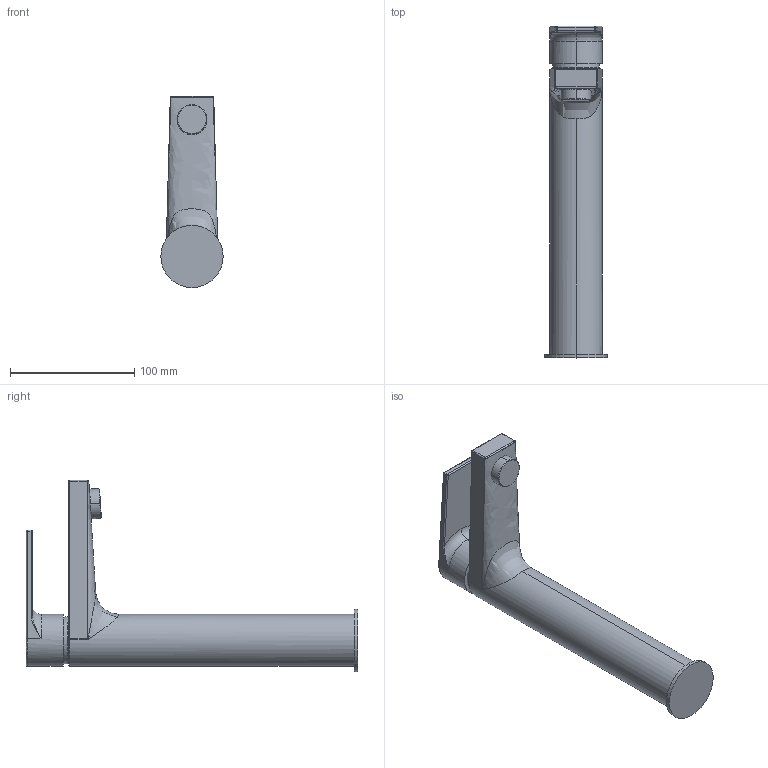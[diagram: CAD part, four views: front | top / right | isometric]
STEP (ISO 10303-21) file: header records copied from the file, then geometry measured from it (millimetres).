
FILE_DESCRIPTION (( 'STEP AP203' ), '1' );
FILE_NAME ('SR6500.STEP', '2016-08-16T10:42:50', ( 'FATÝH' ), ( '' ), 'SwSTEP 2.0', 'SolidWorks 2016', '' );
FILE_SCHEMA (( 'CONFIG_CONTROL_DESIGN' ));
Length unit declared in the file: millimetre
Products named in the file (1): SR6500
Bounding box: 50.25 x 267.54 x 154.13 mm (x, y, z)
Volume: 468592.2 mm3; surface area: 76804.5 mm2
Topology: 6 solids, 7 shells, 81 faces, 168 edges, 93 vertices
Faces by surface type: cylinder 30, plane 25, bspline 12, torus 10, sphere 4
Entity records: 6873 total; most frequent: CARTESIAN_POINT 5213, DIRECTION 327, ORIENTED_EDGE 320, EDGE_CURVE 160, AXIS2_PLACEMENT_3D 136, VERTEX_POINT 93, FACE_OUTER_BOUND 81, ADVANCED_FACE 81
